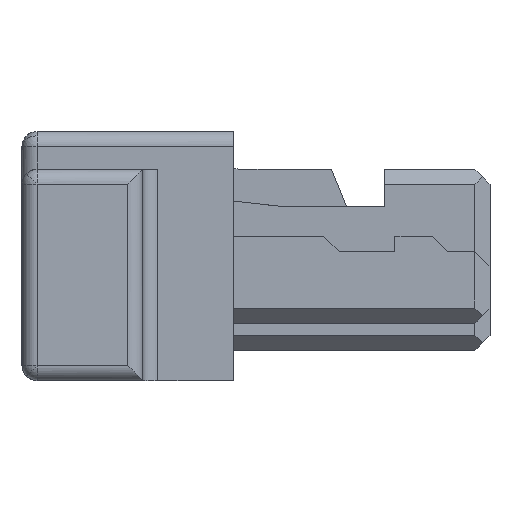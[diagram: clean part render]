
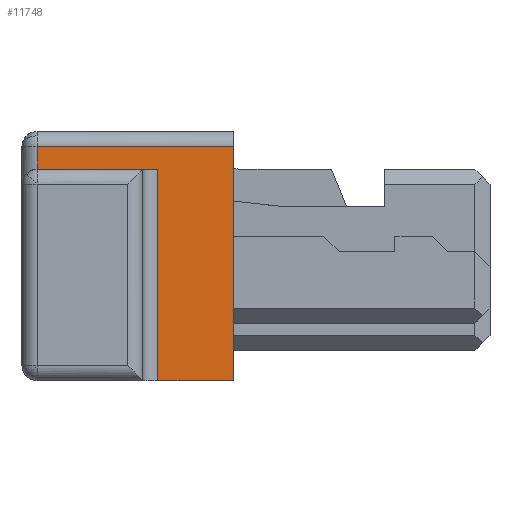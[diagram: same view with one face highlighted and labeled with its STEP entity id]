
A CAD part, front view. The second image highlights one B-rep face of the part: STEP entity #11748.
In plain terms, the highlighted planar face has unit normal (0, -1, 0).
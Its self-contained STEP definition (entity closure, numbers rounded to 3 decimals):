
#159=DIRECTION('',(0.,0.,1.));
#160=VECTOR('',#159,1.4);
#161=CARTESIAN_POINT('',(0.9,-6.8,-0.825));
#162=LINE('',#161,#160);
#163=DIRECTION('',(1.,0.,0.));
#164=VECTOR('',#163,0.5);
#165=CARTESIAN_POINT('',(0.9,-6.8,-0.825));
#166=LINE('',#165,#164);
#167=DIRECTION('',(1.,0.,0.));
#168=VECTOR('',#167,0.8);
#169=CARTESIAN_POINT('',(0.1,-6.8,0.575));
#170=LINE('',#169,#168);
#171=DIRECTION('',(0.,0.,1.));
#172=VECTOR('',#171,0.15);
#173=CARTESIAN_POINT('',(0.1,-6.8,0.575));
#174=LINE('',#173,#172);
#435=DIRECTION('',(0.,0.,-1.));
#436=VECTOR('',#435,1.55);
#437=CARTESIAN_POINT('',(1.4,-6.8,0.725));
#438=LINE('',#437,#436);
#8642=DIRECTION('',(1.,0.,0.));
#8643=VECTOR('',#8642,1.3);
#8644=CARTESIAN_POINT('',(0.1,-6.8,0.725));
#8645=LINE('',#8644,#8643);
#8690=CARTESIAN_POINT('',(0.1,-6.8,0.575));
#8691=VERTEX_POINT('',#8690);
#8692=CARTESIAN_POINT('',(0.9,-6.8,0.575));
#8693=VERTEX_POINT('',#8692);
#8742=CARTESIAN_POINT('',(0.9,-6.8,-0.825));
#8743=VERTEX_POINT('',#8742);
#8744=CARTESIAN_POINT('',(0.1,-6.8,0.725));
#8745=CARTESIAN_POINT('',(1.4,-6.8,0.725));
#8746=VERTEX_POINT('',#8744);
#8747=VERTEX_POINT('',#8745);
#8748=CARTESIAN_POINT('',(1.4,-6.8,-0.825));
#8749=VERTEX_POINT('',#8748);
#11732=CARTESIAN_POINT('',(0.75,-6.8,-0.05));
#11733=DIRECTION('',(0.,1.,0.));
#11734=DIRECTION('',(-1.,0.,0.));
#11735=AXIS2_PLACEMENT_3D('',#11732,#11733,#11734);
#11736=PLANE('',#11735);
#11738=ORIENTED_EDGE('',*,*,#11737,.T.);
#11740=ORIENTED_EDGE('',*,*,#11739,.T.);
#11742=ORIENTED_EDGE('',*,*,#11741,.T.);
#11743=ORIENTED_EDGE('',*,*,#11704,.F.);
#11744=ORIENTED_EDGE('',*,*,#11726,.T.);
#11745=ORIENTED_EDGE('',*,*,#11258,.F.);
#11746=EDGE_LOOP('',(#11738,#11740,#11742,#11743,#11744,#11745));
#11747=FACE_OUTER_BOUND('',#11746,.F.);
#11748=ADVANCED_FACE('',(#11747),#11736,.F.);
#11258=EDGE_CURVE('',#8691,#8693,#170,.T.);
#11704=EDGE_CURVE('',#8743,#8749,#166,.T.);
#11726=EDGE_CURVE('',#8743,#8693,#162,.T.);
#11737=EDGE_CURVE('',#8691,#8746,#174,.T.);
#11739=EDGE_CURVE('',#8746,#8747,#8645,.T.);
#11741=EDGE_CURVE('',#8747,#8749,#438,.T.);
